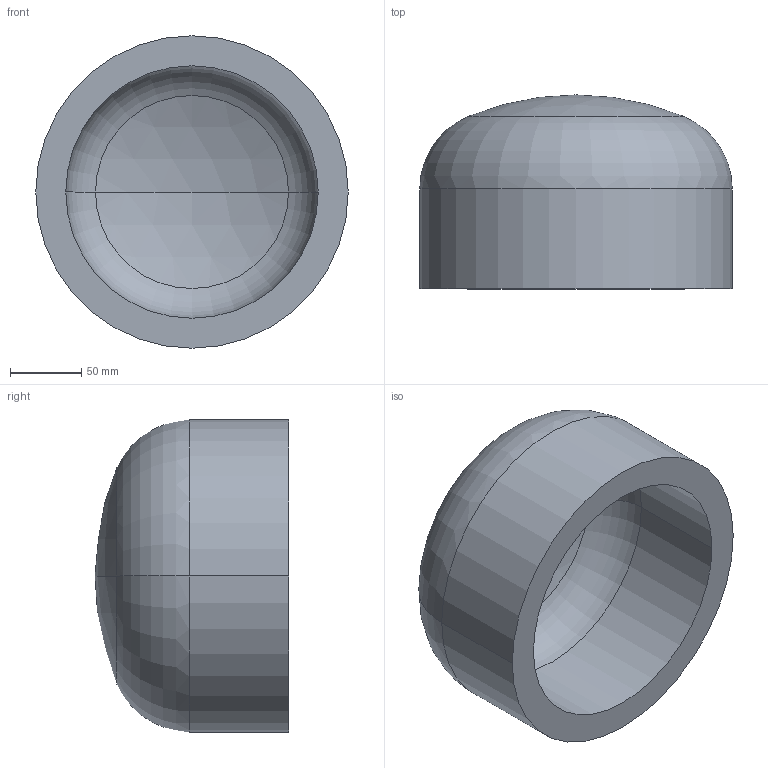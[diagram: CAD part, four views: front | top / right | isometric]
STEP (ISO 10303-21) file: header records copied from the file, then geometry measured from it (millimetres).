
FILE_DESCRIPTION (( 'STEP AP203' ), '1' );
FILE_NAME ('DIN 28013 Korbbogenform_-_Boden DIN 28013 - 219,1 x 70 - I - s=21.step', '2016-07-01T07:42:41', ( '' ), ( '' ), 'SwSTEP 2.0', 'SolidWorks 2013', '' );
FILE_SCHEMA (( 'CONFIG_CONTROL_DESIGN' ));
Length unit declared in the file: millimetre
Products named in the file (1): DIN 28013 Korbbogenform_-_Boden DIN 28013 - 219,1 x 70 - I - s=21
Bounding box: 219.1 x 135.98 x 219.1 mm (x, y, z)
Volume: 1890083.6 mm3; surface area: 194000.9 mm2
Topology: 1 solids, 1 shells, 13 faces, 24 edges, 14 vertices
Faces by surface type: torus 4, cylinder 4, sphere 4, plane 1
Entity records: 407 total; most frequent: DIRECTION 72, CARTESIAN_POINT 52, ORIENTED_EDGE 48, AXIS2_PLACEMENT_3D 34, EDGE_CURVE 24, CIRCLE 20, EDGE_LOOP 14, VERTEX_POINT 14
